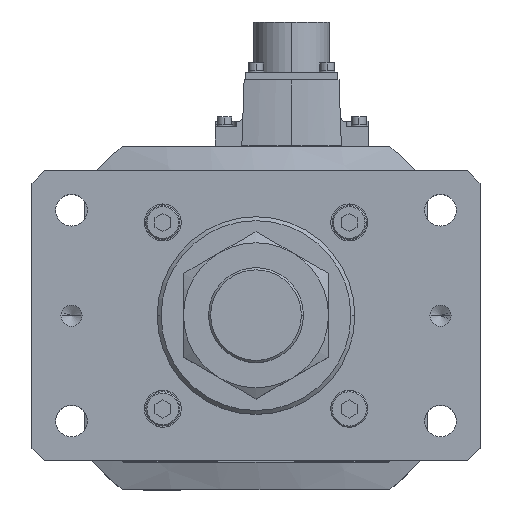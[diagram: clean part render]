
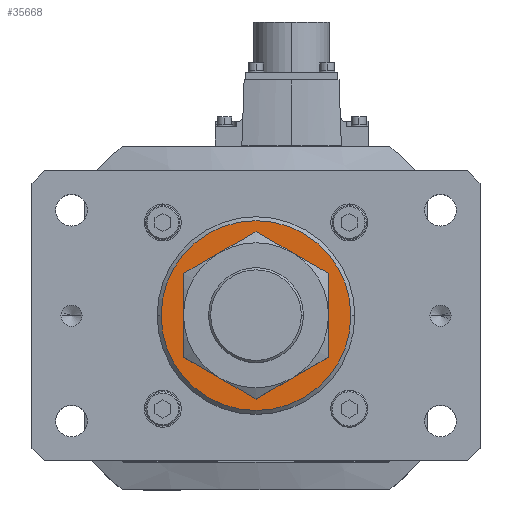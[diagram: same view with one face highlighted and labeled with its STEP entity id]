
A CAD part, top view. The second image highlights one B-rep face of the part: STEP entity #35668.
In plain terms, the highlighted planar face has unit normal (0, 0, 1).
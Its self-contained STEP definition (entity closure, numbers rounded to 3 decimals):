
#1767 = EDGE_CURVE ( 'NONE', #27278, #27924, #28565, .T. ) ;
#2707 = CARTESIAN_POINT ( 'NONE',  ( 0., 0., 296. ) ) ;
#2838 = DIRECTION ( 'NONE',  ( 0., 0., -1. ) ) ;
#4061 = CARTESIAN_POINT ( 'NONE',  ( 0., 0., 296. ) ) ;
#6430 = VERTEX_POINT ( 'NONE', #27071 ) ;
#6544 = FACE_BOUND ( 'NONE', #8972, .T. ) ;
#6792 = DIRECTION ( 'NONE',  ( 0., 0., -1. ) ) ;
#6882 = EDGE_CURVE ( 'NONE', #6430, #27172, #16241, .T. ) ;
#7126 = AXIS2_PLACEMENT_3D ( 'NONE', #18044, #6792, #27041 ) ;
#7207 = DIRECTION ( 'NONE',  ( 1., 0., 0. ) ) ;
#7245 = EDGE_CURVE ( 'NONE', #27172, #6430, #25591, .T. ) ;
#8972 = EDGE_LOOP ( 'NONE', ( #23134, #21610 ) ) ;
#10859 = CARTESIAN_POINT ( 'NONE',  ( 0., 0., 296. ) ) ;
#13540 = DIRECTION ( 'NONE',  ( 1., 0., 0. ) ) ;
#13752 = FACE_OUTER_BOUND ( 'NONE', #21805, .T. ) ;
#14137 = PLANE ( 'NONE',  #24688 ) ;
#15433 = AXIS2_PLACEMENT_3D ( 'NONE', #4061, #21731, #7207 ) ;
#16241 = CIRCLE ( 'NONE', #7126, 23. ) ;
#17817 = ORIENTED_EDGE ( 'NONE', *, *, #28181, .T. ) ;
#18044 = CARTESIAN_POINT ( 'NONE',  ( 0., 0., 296. ) ) ;
#19214 = CIRCLE ( 'NONE', #29501, 36. ) ;
#20008 = DIRECTION ( 'NONE',  ( 1., 0., 0. ) ) ;
#20170 = CARTESIAN_POINT ( 'NONE',  ( 23., 0., 296. ) ) ;
#20279 = CARTESIAN_POINT ( 'NONE',  ( 36., 0., 296. ) ) ;
#21610 = ORIENTED_EDGE ( 'NONE', *, *, #6882, .T. ) ;
#21731 = DIRECTION ( 'NONE',  ( 0., 0., 1. ) ) ;
#21805 = EDGE_LOOP ( 'NONE', ( #33241, #17817 ) ) ;
#23134 = ORIENTED_EDGE ( 'NONE', *, *, #7245, .T. ) ;
#24688 = AXIS2_PLACEMENT_3D ( 'NONE', #2707, #31475, #20008 ) ;
#24908 = DIRECTION ( 'NONE',  ( 0., 0., 1. ) ) ;
#25591 = CIRCLE ( 'NONE', #30108, 23. ) ;
#25637 = DIRECTION ( 'NONE',  ( 1., 0., 0. ) ) ;
#27041 = DIRECTION ( 'NONE',  ( 1., 0., 0. ) ) ;
#27071 = CARTESIAN_POINT ( 'NONE',  ( -23., 0., 296. ) ) ;
#27172 = VERTEX_POINT ( 'NONE', #20170 ) ;
#27278 = VERTEX_POINT ( 'NONE', #32160 ) ;
#27924 = VERTEX_POINT ( 'NONE', #20279 ) ;
#28181 = EDGE_CURVE ( 'NONE', #27924, #27278, #19214, .T. ) ;
#28565 = CIRCLE ( 'NONE', #15433, 36. ) ;
#29501 = AXIS2_PLACEMENT_3D ( 'NONE', #10859, #24908, #13540 ) ;
#30108 = AXIS2_PLACEMENT_3D ( 'NONE', #31491, #2838, #25637 ) ;
#31475 = DIRECTION ( 'NONE',  ( 0., 0., 1. ) ) ;
#31491 = CARTESIAN_POINT ( 'NONE',  ( 0., 0., 296. ) ) ;
#32160 = CARTESIAN_POINT ( 'NONE',  ( -36., 0., 296. ) ) ;
#33241 = ORIENTED_EDGE ( 'NONE', *, *, #1767, .T. ) ;
#35668 = ADVANCED_FACE ( 'NONE', ( #6544, #13752 ), #14137, .T. ) ;
